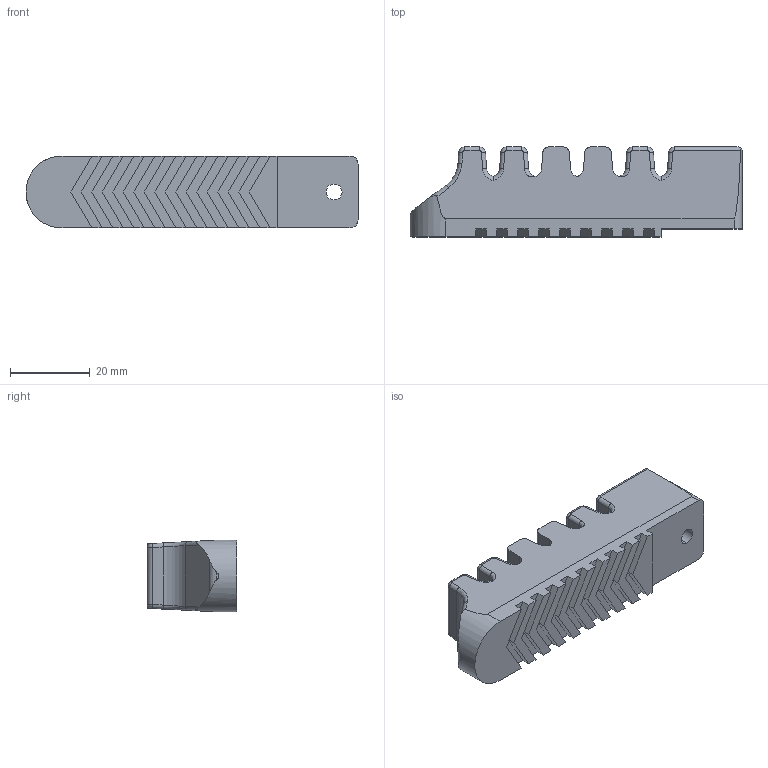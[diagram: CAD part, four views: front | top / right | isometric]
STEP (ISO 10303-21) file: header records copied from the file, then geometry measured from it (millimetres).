
FILE_DESCRIPTION (( 'STEP AP214' ), '1' );
FILE_NAME ('B6.STEP', '2019-12-04T07:40:40', ( '微软用户' ), ( '微软中国' ), 'SwSTEP 2.0', 'SolidWorks 2016', '' );
FILE_SCHEMA (( 'AUTOMOTIVE_DESIGN' ));
Length unit declared in the file: millimetre
Products named in the file (1): B6
Bounding box: 83.03 x 22.5 x 18 mm (x, y, z)
Volume: 25637.5 mm3; surface area: 8226.1 mm2
Topology: 1 solids, 1 shells, 162 faces, 432 edges, 272 vertices
Faces by surface type: plane 81, cylinder 53, bspline 28
Entity records: 8365 total; most frequent: CARTESIAN_POINT 2874, ORIENTED_EDGE 864, DIRECTION 652, EDGE_CURVE 432, VECTOR 284, LINE 284, VERTEX_POINT 272, AXIS2_PLACEMENT_3D 184
